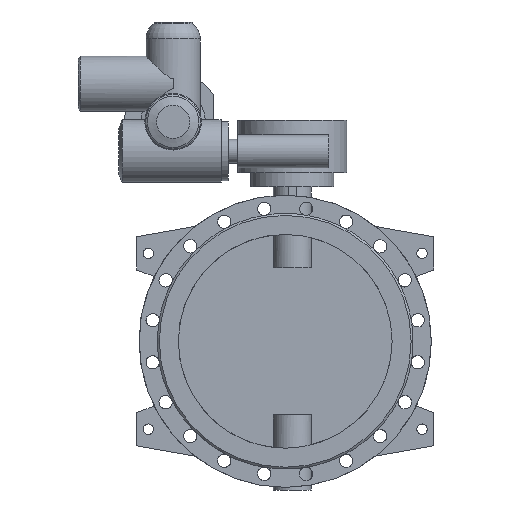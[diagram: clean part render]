
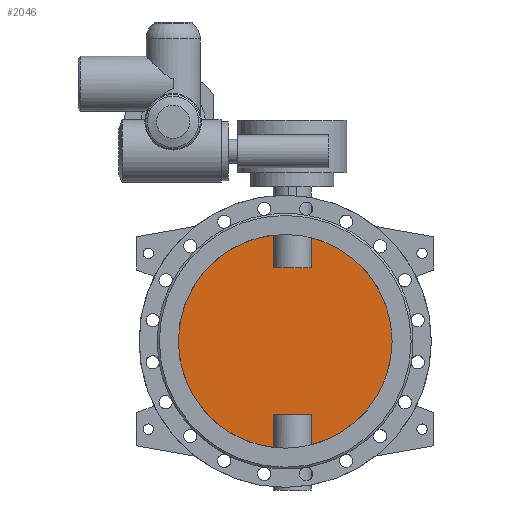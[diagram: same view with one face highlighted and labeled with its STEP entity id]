
A CAD part, front view. The second image highlights one B-rep face of the part: STEP entity #2046.
In plain terms, the highlighted planar face has unit normal (0, -1, 0).
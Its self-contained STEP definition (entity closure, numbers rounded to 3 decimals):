
#2046=ADVANCED_FACE('',(#4027),#4029,.F.);
#4027=FACE_BOUND('',#4028,.T.);
#4028=EDGE_LOOP('',(#5199,#5200,#5201,#5202,#5203,#5204,#5205,#5206));
#4029=PLANE('',#4030);
#4030=AXIS2_PLACEMENT_3D('',#4031,#4032,#4033);
#4031=CARTESIAN_POINT('',(0.,-5.,0.));
#4032=DIRECTION('',(0.,1.,0.));
#4033=DIRECTION('',(1.,0.,0.));
#5199=ORIENTED_EDGE('',*,*,#5786,.T.);
#5200=ORIENTED_EDGE('',*,*,#5791,.T.);
#5201=ORIENTED_EDGE('',*,*,#5792,.T.);
#5202=ORIENTED_EDGE('',*,*,#5793,.T.);
#5203=ORIENTED_EDGE('',*,*,#5788,.T.);
#5204=ORIENTED_EDGE('',*,*,#5794,.T.);
#5205=ORIENTED_EDGE('',*,*,#5795,.T.);
#5206=ORIENTED_EDGE('',*,*,#5796,.T.);
#5786=EDGE_CURVE('',#6803,#6804,#6805,.F.);
#5788=EDGE_CURVE('',#6808,#6806,#6809,.F.);
#5791=EDGE_CURVE('',#6804,#6813,#6814,.T.);
#5792=EDGE_CURVE('',#6813,#6815,#6816,.F.);
#5793=EDGE_CURVE('',#6815,#6808,#6817,.F.);
#5794=EDGE_CURVE('',#6806,#6818,#6819,.F.);
#5795=EDGE_CURVE('',#6818,#6820,#6821,.F.);
#5796=EDGE_CURVE('',#6820,#6803,#6822,.T.);
#6803=VERTEX_POINT('',#13007);
#6804=VERTEX_POINT('',#13008);
#6805=CIRCLE('',#13009,225.);
#6806=VERTEX_POINT('',#13013);
#6808=VERTEX_POINT('',#13099);
#6809=CIRCLE('',#13100,225.);
#6813=VERTEX_POINT('',#13218);
#6814=LINE('',#13219,#13220);
#6815=VERTEX_POINT('',#13222);
#6816=LINE('',#13223,#13224);
#6817=LINE('',#13226,#13227);
#6818=VERTEX_POINT('',#13229);
#6819=LINE('',#13230,#13231);
#6820=VERTEX_POINT('',#13233);
#6821=LINE('',#13234,#13235);
#6822=LINE('',#13237,#13238);
#13007=CARTESIAN_POINT('',(54.686,-5.,-218.253));
#13008=CARTESIAN_POINT('',(54.686,-5.,218.253));
#13009=AXIS2_PLACEMENT_3D('',#13010,#13011,#13012);
#13010=CARTESIAN_POINT('',(0.,-5.,0.));
#13011=DIRECTION('',(0.,1.,0.));
#13012=DIRECTION('',(0.243,0.,0.97));
#13013=CARTESIAN_POINT('',(-24.686,-5.,-223.642));
#13099=CARTESIAN_POINT('',(-24.686,-5.,223.642));
#13100=AXIS2_PLACEMENT_3D('',#13101,#13102,#13103);
#13101=CARTESIAN_POINT('',(0.,-5.,0.));
#13102=DIRECTION('',(0.,1.,0.));
#13103=DIRECTION('',(-0.11,0.,-0.994));
#13218=CARTESIAN_POINT('',(54.686,-5.,155.));
#13219=CARTESIAN_POINT('',(54.686,-5.,218.253));
#13220=VECTOR('',#13221,1.);
#13221=DIRECTION('',(0.,0.,-1.));
#13222=CARTESIAN_POINT('',(-24.686,-5.,155.));
#13223=CARTESIAN_POINT('',(-24.686,-5.,155.));
#13224=VECTOR('',#13225,1.);
#13225=DIRECTION('',(1.,0.,0.));
#13226=CARTESIAN_POINT('',(-24.686,-5.,223.642));
#13227=VECTOR('',#13228,1.);
#13228=DIRECTION('',(0.,0.,-1.));
#13229=CARTESIAN_POINT('',(-24.686,-5.,-155.));
#13230=CARTESIAN_POINT('',(-24.686,-5.,-155.));
#13231=VECTOR('',#13232,1.);
#13232=DIRECTION('',(0.,0.,-1.));
#13233=CARTESIAN_POINT('',(54.686,-5.,-155.));
#13234=CARTESIAN_POINT('',(54.686,-5.,-155.));
#13235=VECTOR('',#13236,1.);
#13236=DIRECTION('',(-1.,0.,0.));
#13237=CARTESIAN_POINT('',(54.686,-5.,-155.));
#13238=VECTOR('',#13239,1.);
#13239=DIRECTION('',(0.,0.,-1.));
